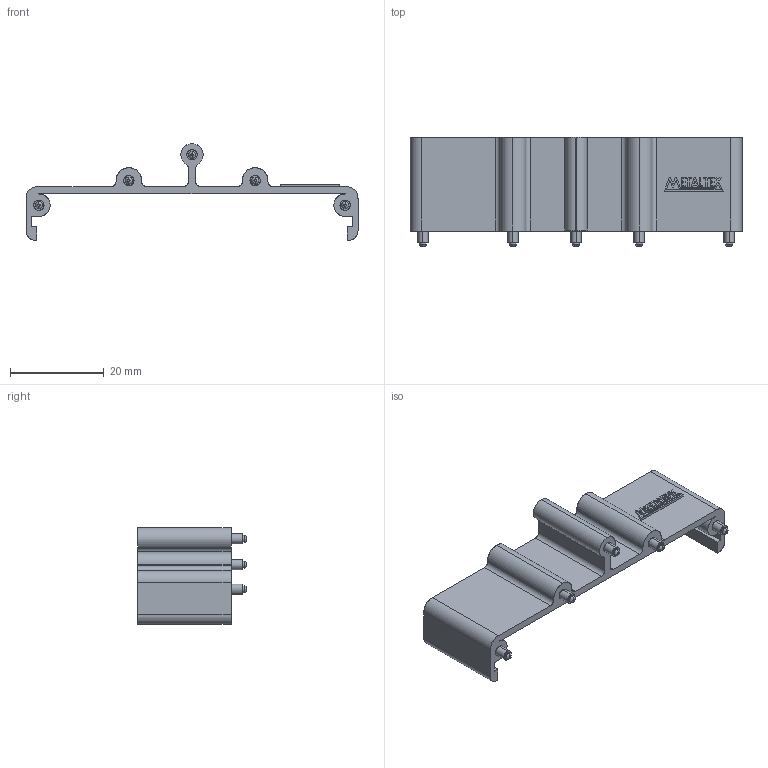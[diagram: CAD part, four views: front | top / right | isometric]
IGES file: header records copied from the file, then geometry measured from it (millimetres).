
Start section: SolidWorks IGES file using analytic representation for surfaces
Global section: file name: D:\X - Arquivos\PROEX\Empresas\P11 - METALTEX\01 - Produtos\IGES\7ª remessa\2ª etapa\SP7-E20.IGS; native system: SolidWorks 2012; preprocessor: SolidWorks 2012; author: Usuario; date: 190912.135129; units: millimetre
Bounding box: 71 x 23.3 x 20.65 mm (x, y, z)
Surface area: 5156.8 mm2 (no closed solid volume)
Topology: 0 solids, 0 shells, 211 faces, 2238 edges, 2238 vertices
Faces by surface type: bspline 151, revolution 60
